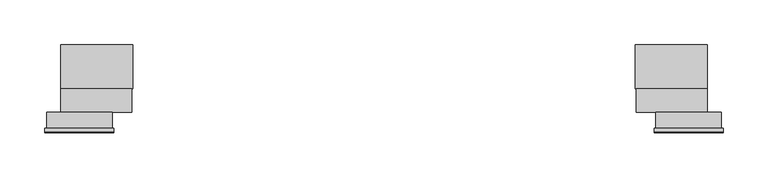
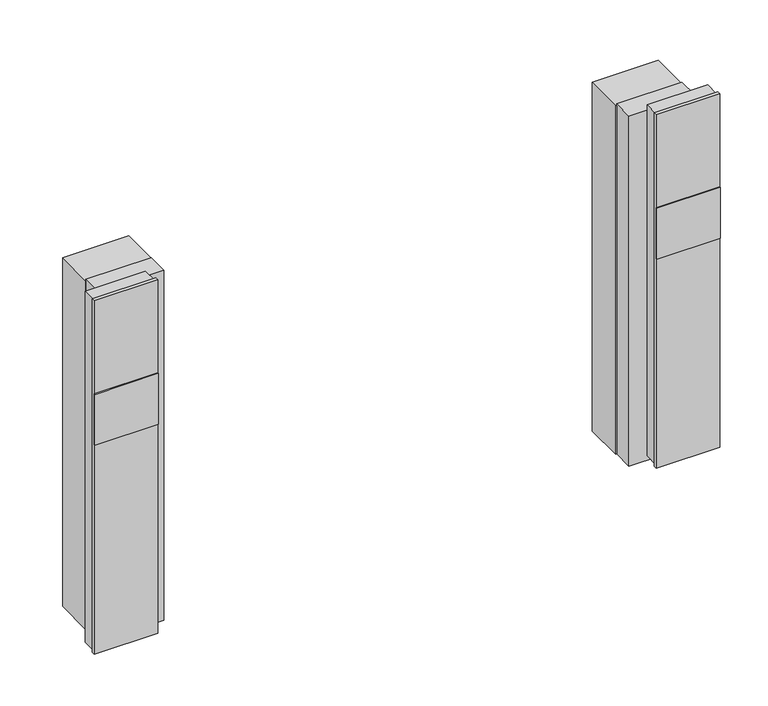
"""IFC4 building model written with IfcOpenShell, lengths in millimetres: proxy geometry, 11410740_USA_EBA7848_EDST-CLST : 29992961_USA_11410740_EBA7848_EDST-CLST."""

import ifcopenshell
import ifcopenshell.guid

model = None  # the IFC model being written
_history = None  # IfcOwnerHistory: only IFC2X3 demands one
_inside = {}  # id of a spatial element -> (the spatial element, [elements in it])
_under = {}  # id of a project, library or spatial element -> (it, [spatial elements below it])
_declared = {}  # id of a project -> (the project, [libraries it declares])
_typed = {}  # id of a type object -> (the type object, [elements of that type])
_made_of = {}  # id of a material, layer set ... -> (it, [elements and type objects made of it])


def new_model(schema):
    """Start an empty IFC model of exactly this schema.

    Asked for "IFC4X3", IfcOpenShell would pick the latest addendum, in which some entities
    have other attributes; the version numbers below select the first issue.
    IFC2X3 requires an IfcOwnerHistory on every rooted entity: one is made here for all.
    """
    global model, _history
    if schema == "IFC4X3":
        model = ifcopenshell.file(schema_version=(4, 3, 0, 0))
    else:
        model = ifcopenshell.file(schema=schema)
    _inside.clear()
    _under.clear()
    _declared.clear()
    _typed.clear()
    _made_of.clear()
    _history = None
    if model.schema == "IFC2X3":
        org = make("IfcOrganization", Name="unknown")
        user = make(
            "IfcPersonAndOrganization",
            ThePerson=make("IfcPerson", FamilyName="unknown"),
            TheOrganization=org,
        )
        app = make(
            "IfcApplication",
            ApplicationDeveloper=org,
            Version="unknown",
            ApplicationFullName="unknown",
            ApplicationIdentifier="unknown",
        )
        _history = make(
            "IfcOwnerHistory",
            OwningUser=user,
            OwningApplication=app,
            ChangeAction="ADDED",
            CreationDate=0,
        )
    return model


def make(cls, **values):
    """One entity of the class cls with the attributes given. An attribute that is None is left unset."""
    return model.create_entity(
        cls, **{name: value for name, value in values.items() if value is not None}
    )


def rooted(cls, **values):
    """An entity with a GlobalId (a new one), such as an element, a storey or a relation."""
    return make(cls, GlobalId=ifcopenshell.guid.new(), OwnerHistory=_history, **values)


def si_unit(unit_type, name, prefix=None):
    """IfcSIUnit, for example si_unit("LENGTHUNIT", "METRE", prefix="MILLI")."""
    return make("IfcSIUnit", UnitType=unit_type, Prefix=prefix, Name=name)


def assignment(units):
    """IfcUnitAssignment: the units of a project."""
    return None if units is None else make("IfcUnitAssignment", Units=units)


def point(xyz):
    """IfcCartesianPoint."""
    return None if xyz is None else make("IfcCartesianPoint", Coordinates=xyz)


def direction(xyz):
    """IfcDirection."""
    return None if xyz is None else make("IfcDirection", DirectionRatios=xyz)


def frame(location, z_axis=None, x_axis=None):
    """IfcAxis2Placement3D, a coordinate frame: its origin and axes. An axis left out is left unset."""
    return make(
        "IfcAxis2Placement3D",
        Location=point(location),
        Axis=direction(z_axis),
        RefDirection=direction(x_axis),
    )


def origin():
    """The frame at (0, 0, 0) with its axes left unset."""
    return frame((0.0, 0.0, 0.0))


def origin_with_axes():
    """The frame at (0, 0, 0) with the z axis (0, 0, 1) and the x axis (1, 0, 0) written out."""
    return frame((0.0, 0.0, 0.0), z_axis=(0.0, 0.0, 1.0), x_axis=(1.0, 0.0, 0.0))


def place(relative_to, where):
    """IfcLocalPlacement: puts the frame where relative to a parent placement (None: the world)."""
    return make(
        "IfcLocalPlacement", PlacementRelTo=relative_to, RelativePlacement=where
    )


def context(
    kind, dimensions, precision=None, world=None, true_north=None, identifier=None
):
    """IfcGeometricRepresentationContext, for example the 3D "Model" context."""
    return make(
        "IfcGeometricRepresentationContext",
        ContextIdentifier=identifier,
        ContextType=kind,
        CoordinateSpaceDimension=dimensions,
        Precision=precision,
        WorldCoordinateSystem=world,
        TrueNorth=true_north,
    )


def project(units=None, contexts=None):
    """IfcProject with its units and contexts."""
    return rooted(
        "IfcProject",
        Name="project",
        RepresentationContexts=contexts,
        UnitsInContext=assignment(units),
    )


def spatial(cls, under=None, at=None, **own):
    """A site, building, storey or space (cls), placed at a placement, below another one or the project."""
    s = rooted(cls, ObjectPlacement=at, **own)
    if under is not None:
        _under.setdefault(under.id(), (under, []))[1].append(s)
    return s


def polyline(points):
    """IfcPolyline through the points."""
    return make("IfcPolyline", Points=[point(p) for p in points])


def outline(outer, holes=None, kind="AREA"):
    """IfcArbitraryClosedProfileDef: a profile drawn as a closed curve; with holes, ...WithVoids."""
    if holes is None:
        return make("IfcArbitraryClosedProfileDef", ProfileType=kind, OuterCurve=outer)
    return make(
        "IfcArbitraryProfileDefWithVoids",
        ProfileType=kind,
        OuterCurve=outer,
        InnerCurves=holes,
    )


def extrude(swept, where, along, depth):
    """IfcExtrudedAreaSolid: the profile swept, set in the frame where, extruded along a direction by depth."""
    return make(
        "IfcExtrudedAreaSolid",
        SweptArea=swept,
        Position=where,
        ExtrudedDirection=direction(along),
        Depth=depth,
    )


def shape(context_of_items, identifier, shape_type, items):
    """IfcShapeRepresentation: the items that make up one representation, for example the "Body"."""
    return make(
        "IfcShapeRepresentation",
        ContextOfItems=context_of_items,
        RepresentationIdentifier=identifier,
        RepresentationType=shape_type,
        Items=items,
    )


def source(mapping_origin, context_of_items, identifier, shape_type, items):
    """IfcRepresentationMap: a shape defined once, which mapped items show again and again."""
    return make(
        "IfcRepresentationMap",
        MappingOrigin=mapping_origin,
        MappedRepresentation=shape(context_of_items, identifier, shape_type, items),
    )


def transform(
    local_origin,
    x_axis=None,
    y_axis=None,
    z_axis=None,
    scale=None,
    scale2=None,
    scale3=None,
    uniform=True,
):
    """IfcCartesianTransformationOperator3D, or its non-uniform kind. x_axis, y_axis, z_axis: its Axis1, 2, 3."""
    if uniform:
        return make(
            "IfcCartesianTransformationOperator3D",
            Axis1=direction(x_axis),
            Axis2=direction(y_axis),
            LocalOrigin=point(local_origin),
            Scale=scale,
            Axis3=direction(z_axis),
        )
    return make(
        "IfcCartesianTransformationOperator3DnonUniform",
        Axis1=direction(x_axis),
        Axis2=direction(y_axis),
        LocalOrigin=point(local_origin),
        Scale=scale,
        Axis3=direction(z_axis),
        Scale2=scale2,
        Scale3=scale3,
    )


def mapped(mapping_source, mapping_target):
    """IfcMappedItem: shows the shape of a source again, moved by a transform."""
    return make(
        "IfcMappedItem", MappingSource=mapping_source, MappingTarget=mapping_target
    )


def made_of(thing, what):
    """Note that an element or type object is made of a material, layer set ...; save() writes the relation."""
    if what is not None:
        _made_of.setdefault(what.id(), (what, []))[1].append(thing)
    return thing


def element(
    cls,
    number,
    at=None,
    inside=None,
    cuts=None,
    type_object=None,
    material=None,
    context=None,
    identifier="Body",
    shape_type=None,
    held_by="IfcProductDefinitionShape",
    body=None,
    shapes=None,
    **own,
):
    """One element of the class cls, such as IfcWall. Its Tag is "e" and its number.

    at: its placement. inside: the storey or other place that contains it. cuts: it is an
    opening in that element (IfcRelVoidsElement). A single representation is given by context,
    identifier, shape_type and body (its items); several are given by shapes. held_by: the class
    of the entity that holds the representations. save() writes the other relations.
    """
    e = rooted(cls, Tag="e%d" % number, ObjectPlacement=at, **own)
    if body is not None:
        shapes = [shape(context, identifier, shape_type, body)]
    if shapes is not None:
        e.Representation = make(held_by, Representations=shapes)
    if inside is not None:
        _inside.setdefault(inside.id(), (inside, []))[1].append(e)
    if cuts is not None:
        rooted(
            "IfcRelVoidsElement", RelatingBuildingElement=cuts, RelatedOpeningElement=e
        )
    if type_object is not None:
        _typed.setdefault(type_object.id(), (type_object, []))[1].append(e)
    return made_of(e, material)


def aggregate(whole, parts):
    """IfcRelAggregates: a whole, such as a stair, and the parts it consists of."""
    return rooted("IfcRelAggregates", RelatingObject=whole, RelatedObjects=parts)


def save(model, path):
    """Write the relations noted so far, then the file.

    IfcRelAggregates (storeys below a building ...), IfcRelContainedInSpatialStructure (elements
    in a storey), IfcRelDefinesByType, IfcRelAssociatesMaterial and IfcRelDeclares: one each for
    every whole, place, type object, material and project.
    """
    for whole, parts in _under.values():
        aggregate(whole, parts)
    for where, things in _inside.values():
        rooted(
            "IfcRelContainedInSpatialStructure",
            RelatedElements=things,
            RelatingStructure=where,
        )
    for kind, things in _typed.values():
        rooted("IfcRelDefinesByType", RelatedObjects=things, RelatingType=kind)
    for what, things in _made_of.values():
        rooted("IfcRelAssociatesMaterial", RelatedObjects=things, RelatingMaterial=what)
    for by, libraries in _declared.values():
        rooted("IfcRelDeclares", RelatingContext=by, RelatedDefinitions=libraries)
    model.write(path)


def specialty_equipment_82ef96f5(model_context):
    return source(origin(), model_context, "Body", "SweptSolid", [
        extrude(outline(polyline([(-301.5, -23.3), (-378.5, -23.3), (-378.5, -22.0), (-301.5, -22.0), (-301.5, -23.3)])), frame((0.0, 0.0, 272.0), z_axis=(0.0, 0.0, 1.0), x_axis=(1.0, 0.0, 0.0)), (0.0, 0.0, 1.0), 65.0),
        extrude(outline(polyline([(378.5, -23.3), (301.5, -23.3), (301.5, -22.0), (378.5, -22.0), (378.5, -23.3)])), frame((0.0, 0.0, 272.0), z_axis=(0.0, 0.0, 1.0), x_axis=(1.0, 0.0, 0.0)), (0.0, 0.0, 1.0), 65.0),
        extrude(outline(polyline([(-378.5, -18.0), (-301.5, -18.0), (-301.5, -22.0), (-378.5, -22.0), (-378.5, -18.0)])), frame((0.0, 0.0, 4.0), z_axis=(0.0, 0.0, 1.0), x_axis=(1.0, 0.0, 0.0)), (0.0, 0.0, 1.0), 452.0),
        extrude(outline(polyline([(301.5, -18.0), (378.5, -18.0), (378.5, -22.0), (301.5, -22.0), (301.5, -18.0)])), frame((0.0, 0.0, 4.0), z_axis=(0.0, 0.0, 1.0), x_axis=(1.0, 0.0, 0.0)), (0.0, 0.0, 1.0), 452.0),
        extrude(outline(polyline([(-376.5, 0.0), (-303.5, 0.0), (-303.5, -18.0), (-376.5, -18.0), (-376.5, 0.0)])), frame((0.0, 0.0, 5.5), z_axis=(0.0, 0.0, 1.0), x_axis=(1.0, 0.0, 0.0)), (0.0, 0.0, 1.0), 449.0),
        extrude(outline(polyline([(303.5, 0.0), (376.5, 0.0), (376.5, -18.0), (303.5, -18.0), (303.5, 0.0)])), frame((0.0, 0.0, 5.5), z_axis=(0.0, 0.0, 1.0), x_axis=(1.0, 0.0, 0.0)), (0.0, 0.0, 1.0), 449.0),
        extrude(outline(polyline([(280.5, 75.0), (360.5, 75.0), (360.5, 26.0), (280.5, 26.0), (280.5, 75.0)])), origin_with_axes(), (0.0, 0.0, 1.0), 446.0),
        extrude(outline(polyline([(-360.5, 75.0), (-280.5, 75.0), (-280.5, 26.0), (-360.5, 26.0), (-360.5, 75.0)])), origin_with_axes(), (0.0, 0.0, 1.0), 446.0),
        extrude(outline(polyline([(281.5, 26.0), (360.5, 26.0), (360.5, 0.0), (281.5, 0.0), (281.5, 26.0)])), origin_with_axes(), (0.0, 0.0, 1.0), 448.0),
        extrude(outline(polyline([(-360.5, 26.0), (-281.5, 26.0), (-281.5, 0.0), (-360.5, 0.0), (-360.5, 26.0)])), origin_with_axes(), (0.0, 0.0, 1.0), 448.0),
    ])


if __name__ == "__main__":
    model = new_model("IFC4")
    model_context = context("Model", 3, world=origin())
    ifc_project = project(units=[si_unit("LENGTHUNIT", "METRE", prefix="MILLI")], contexts=[model_context])
    site = spatial("IfcSite", under=ifc_project)
    building = spatial("IfcBuilding", under=site)
    placement = place(None, origin())
    specialty_equipment_shape = specialty_equipment_82ef96f5(model_context)
    element("IfcBuildingElementProxy", 1, Name="11410740_USA_EBA7848_EDST-CLST : 29992961_USA_11410740_EBA7848_EDST-CLST", ObjectType="11410740_USA_EBA7848_EDST-CLST : 29992961_USA_11410740_EBA7848_EDST-CLST", at=placement, inside=building, context=model_context, shape_type="MappedRepresentation", body=[
        mapped(specialty_equipment_shape, transform((0.0, 0.0, 0.0), x_axis=(1.0, 0.0, 0.0), y_axis=(0.0, 1.0, 0.0), z_axis=(0.0, 0.0, 1.0))),
    ])
    save(model, "model.ifc")
